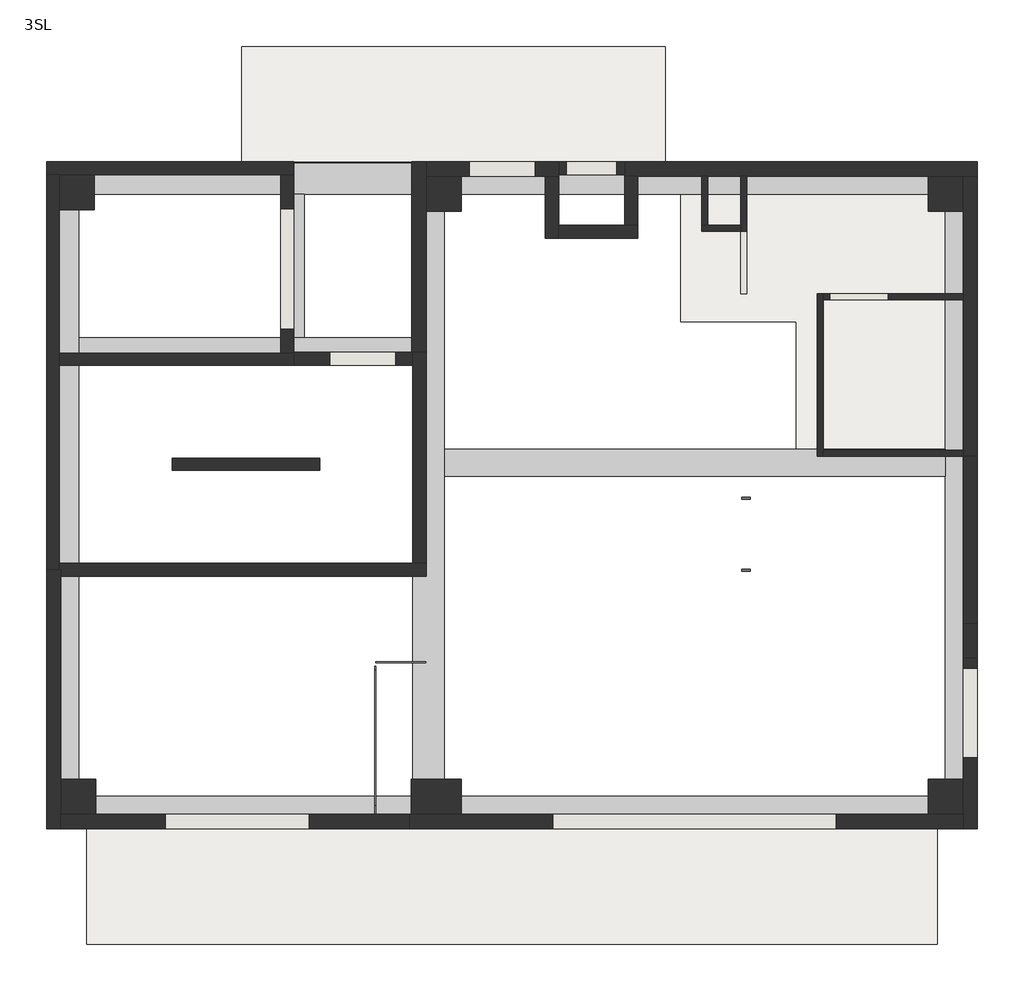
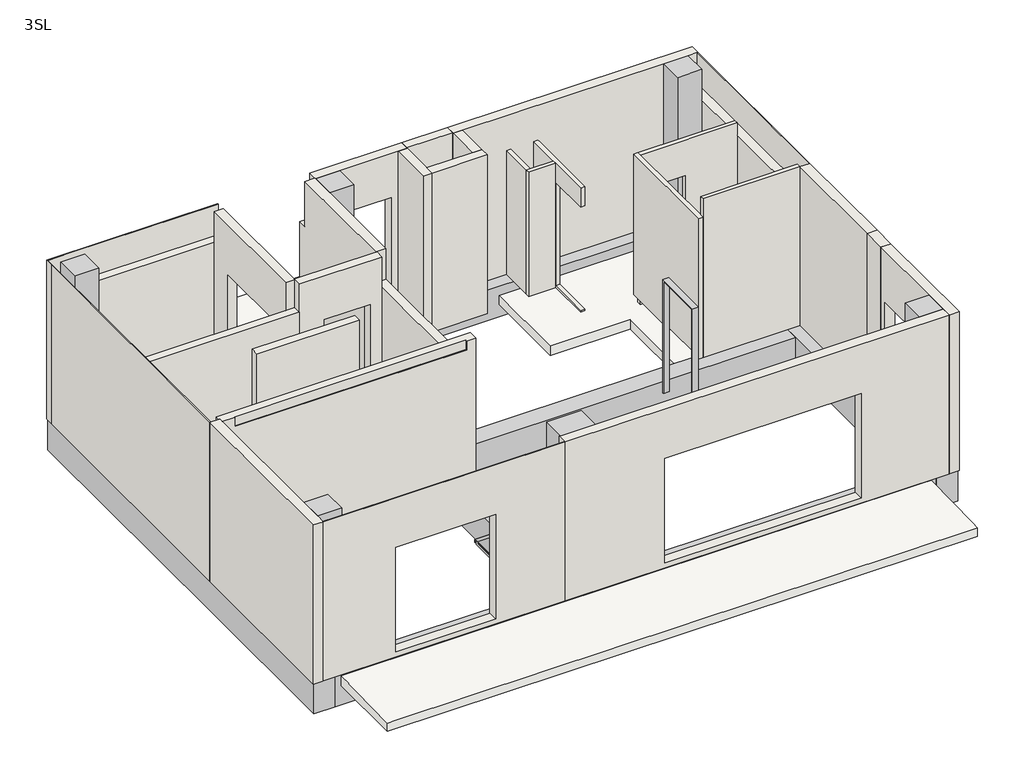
# One storey: 28 walls, 9 beams, 6 columns, 3 proxies, 3 slabs.
"""IFC4 building model written with IfcOpenShell, lengths in millimetres."""

from ifc_helpers import new_model, si_unit, frame, origin, place, context, project, spatial, polyline, outline, extrude, faceted_brep, transform, mapped, element, save
from components import w900h2200_d33cf105

model = new_model("IFC4")

# Units and contexts
model_context = context("Model", 3, world=origin())
ifc_project = project(units=[si_unit("LENGTHUNIT", "METRE", prefix="MILLI")], contexts=[model_context])

# Site, building, storey
site = spatial("IfcSite", under=ifc_project)
building = spatial("IfcBuilding", under=site)
storey = spatial("IfcBuildingStorey", under=building, Name="3SL", Elevation=6240.0)

# Beams
placement = place(None, origin())
element("IfcBeam", 1, ObjectType="コンクリート-長方形梁 : B1-350x550", at=placement, inside=storey, context=model_context, shape_type="SweptSolid", body=[
    extrude(outline(polyline([(7768.2341012, -131.3998484), (7768.2341012, -481.3998484), (1318.2341012, -481.3998484), (1318.2341012, -131.3998484), (7768.2341012, -131.3998484)])), frame((0.0, 0.0, 5690.0), z_axis=(0.0, 0.0, 1.0), x_axis=(1.0, 0.0, 0.0)), (0.0, 0.0, 1.0), 550.0),
])
element("IfcBeam", 2, ObjectType="コンクリート-長方形梁 : B1-350x550", at=placement, inside=storey, context=model_context, shape_type="Brep", body=[
    faceted_brep([(-3381.7658988, 1298.6001516, 6240.0), (-3381.7658988, 948.6001516, 6240.0), (-616.7658988, 948.6001516, 6240.0), (918.2341012, 948.6001516, 6240.0), (918.2341012, 1298.6001516, 6240.0), (-481.7658988, 1298.6001516, 6240.0), (-781.7658988, 1298.6001516, 6240.0), (-3381.7658988, 948.6001516, 5690.0), (-616.7658988, 948.6001516, 5690.0), (918.2341012, 948.6001516, 5690.0), (-3381.7658988, 1298.6001516, 5690.0), (918.2341012, 1298.6001516, 5690.0)], [[[0, 1, 2, 3, 4, 5, 6]], [[1, 7, 8, 9, 3, 2]], [[7, 10, 11, 9, 8]], [[10, 0, 6, 5, 4, 11]], [[1, 0, 10, 7]], [[4, 3, 9, 11]]]),
])
element("IfcBeam", 3, ObjectType="コンクリート-長方形梁 : B2-300x500", at=placement, inside=storey, context=model_context, shape_type="SweptSolid", body=[
    extrude(outline(polyline([(-481.7658988, 1298.6001516), (-781.7658988, 1298.6001516), (-781.7658988, 3148.6001516), (-481.7658988, 3148.6001516), (-481.7658988, 1298.6001516)])), frame((0.0, 0.0, 5740.0), z_axis=(0.0, 0.0, 1.0), x_axis=(1.0, 0.0, 0.0)), (0.0, 0.0, 1.0), 500.0),
])
element("IfcBeam", 4, ObjectType="コンクリート-長方形梁 : G1-400x600", at=placement, inside=storey, context=model_context, shape_type="Brep", body=[
    faceted_brep([(7768.2341012, -5001.3998484, 6240.0), (8168.2341012, -5001.3998484, 6240.0), (8168.2341012, -221.3998484, 6240.0), (8168.2341012, 3378.6001516, 6240.0), (8168.2341012, 3548.6001516, 6240.0), (7768.2341012, 3548.6001516, 6240.0), (7768.2341012, 3148.6001516, 6240.0), (7768.2341012, -131.3998484, 6240.0), (7768.2341012, -481.3998484, 6240.0), (7768.2341012, -4601.3998484, 6240.0), (8168.2341012, -5001.3998484, 5640.0), (8168.2341012, -221.3998484, 5640.0), (8168.2341012, 3378.6001516, 5640.0), (8168.2341012, 3548.6001516, 5640.0), (7768.2341012, -5001.3998484, 5640.0), (7768.2341012, -4601.3998484, 5640.0), (7768.2341012, 3148.6001516, 5640.0), (7768.2341012, 3548.6001516, 5640.0)], [[[0, 1, 2, 3, 4, 5, 6, 7, 8, 9]], [[1, 10, 11, 12, 13, 4, 3, 2]], [[10, 14, 15, 16, 17, 13, 12, 11]], [[14, 0, 9, 8, 7, 6, 5, 17, 16, 15]], [[1, 0, 14, 10]], [[5, 4, 13, 17]]]),
])
element("IfcBeam", 5, ObjectType="コンクリート-長方形梁 : G1-400x600", at=placement, inside=storey, context=model_context, shape_type="Brep", body=[
    faceted_brep([(-3381.7658988, 3548.6001516, 6240.0), (-3781.7658988, 3548.6001516, 6240.0), (-3781.7658988, 3398.6001516, 6240.0), (-3781.7658988, -1686.3998484, 6240.0), (-3781.7658988, -5001.3998484, 6240.0), (-3381.7658988, -5001.3998484, 6240.0), (-3381.7658988, -4601.3998484, 6240.0), (-3381.7658988, 948.6001516, 6240.0), (-3381.7658988, 1298.6001516, 6240.0), (-3381.7658988, 3148.6001516, 6240.0), (-3781.7658988, 3548.6001516, 5640.0), (-3781.7658988, 3398.6001516, 5640.0), (-3781.7658988, -1686.3998484, 5640.0), (-3781.7658988, -5001.3998484, 5640.0), (-3381.7658988, 3548.6001516, 5640.0), (-3381.7658988, 3148.6001516, 5640.0), (-3381.7658988, -4601.3998484, 5640.0), (-3381.7658988, -5001.3998484, 5640.0)], [[[0, 1, 2, 3, 4, 5, 6, 7, 8, 9]], [[1, 10, 11, 12, 13, 4, 3, 2]], [[10, 14, 15, 16, 17, 13, 12, 11]], [[14, 0, 9, 8, 7, 6, 5, 17, 16, 15]], [[1, 0, 14, 10]], [[5, 4, 13, 17]]]),
])
element("IfcBeam", 6, ObjectType="コンクリート-長方形梁 : G1-400x600", at=placement, inside=storey, context=model_context, shape_type="Brep", body=[
    faceted_brep([(918.2341012, -5001.3998484, 6240.0), (1318.2341012, -5001.3998484, 6240.0), (1318.2341012, -4601.3998484, 6240.0), (1318.2341012, -481.3998484, 6240.0), (1318.2341012, -131.3998484, 6240.0), (1318.2341012, 3148.6001516, 6240.0), (918.2341012, 3148.6001516, 6240.0), (918.2341012, 1298.6001516, 6240.0), (918.2341012, 948.6001516, 6240.0), (918.2341012, -1601.3998484, 6240.0), (918.2341012, -4601.3998484, 6240.0), (918.2341012, -5001.3998484, 5640.0), (918.2341012, 3148.6001516, 5640.0), (918.2341012, 1113.6001516, 5640.0), (918.2341012, -1601.3998484, 5640.0), (918.2341012, -4601.3998484, 5640.0), (1318.2341012, -5001.3998484, 5640.0), (1318.2341012, 3148.6001516, 5640.0), (1318.2341012, -4601.3998484, 5640.0), (1318.2341012, 3148.6001516, 6060.0)], [[[0, 1, 2, 3, 4, 5, 6, 7, 8, 9, 10]], [[11, 0, 10, 9, 8, 7, 6, 12, 13, 14, 15]], [[16, 11, 15, 14, 13, 12, 17, 18]], [[1, 16, 18, 17, 19, 5, 4, 3, 2]], [[1, 0, 11, 16]], [[6, 5, 19, 17, 12]]]),
])
element("IfcBeam", 7, ObjectType="コンクリート-長方形梁 : G1-400x600", at=placement, inside=storey, context=model_context, shape_type="SweptSolid", body=[
    extrude(outline(polyline([(7768.2341012, -4601.3998484), (7768.2341012, -5001.3998484), (1318.2341012, -5001.3998484), (1318.2341012, -4601.3998484), (7768.2341012, -4601.3998484)])), frame((0.0, 0.0, 5640.0), z_axis=(0.0, 0.0, 1.0), x_axis=(1.0, 0.0, 0.0)), (0.0, 0.0, 1.0), 600.0),
])
element("IfcBeam", 8, ObjectType="コンクリート-長方形梁 : G1-400x600", at=placement, inside=storey, context=model_context, shape_type="Brep", body=[
    faceted_brep([(7768.2341012, 3148.6001516, 6240.0), (7768.2341012, 3548.6001516, 6240.0), (-616.7658988, 3548.6001516, 6240.0), (-3381.7658988, 3548.6001516, 6240.0), (-3381.7658988, 3148.6001516, 6240.0), (-781.7658988, 3148.6001516, 6240.0), (-481.7658988, 3148.6001516, 6240.0), (918.2341012, 3148.6001516, 6240.0), (1318.2341012, 3148.6001516, 6240.0), (7768.2341012, 3548.6001516, 5640.0), (-616.7658988, 3548.6001516, 5640.0), (-3381.7658988, 3548.6001516, 5640.0), (7768.2341012, 3148.6001516, 5640.0), (1318.2341012, 3148.6001516, 5640.0), (918.2341012, 3148.6001516, 5640.0), (-3381.7658988, 3148.6001516, 5640.0)], [[[0, 1, 2, 3, 4, 5, 6, 7, 8]], [[1, 9, 10, 11, 3, 2]], [[9, 12, 13, 14, 15, 11, 10]], [[12, 0, 8, 7, 6, 5, 4, 15, 14, 13]], [[1, 0, 12, 9]], [[4, 3, 11, 15]]]),
])
element("IfcBeam", 9, ObjectType="コンクリート-長方形梁 : G1-400x600", at=placement, inside=storey, context=model_context, shape_type="Brep", body=[
    faceted_brep([(-3381.7658988, -4601.3998484, 6240.0), (-3381.7658988, -5001.3998484, 6240.0), (918.2341012, -5001.3998484, 6240.0), (918.2341012, -4601.3998484, 6240.0), (-3381.7658988, -5001.3998484, 5640.0), (918.2341012, -5001.3998484, 5640.0), (-3381.7658988, -4601.3998484, 5640.0), (918.2341012, -4601.3998484, 5640.0), (-3381.7658988, -4601.3998484, 6060.0), (918.2341012, -4601.3998484, 6060.0)], [[[0, 1, 2, 3]], [[1, 4, 5, 2]], [[4, 6, 7, 5]], [[6, 8, 0, 3, 9, 7]], [[1, 0, 8, 6, 4]], [[3, 2, 5, 7, 9]]]),
])

# Proxies
element("IfcBuildingElementProxy", 10, Name="幅木-標準", ObjectType="幅木-標準", at=placement, inside=storey, context=model_context, shape_type="SweptSolid", body=[
    extrude(outline(polyline([(1083.2341012, -2871.3998484), (1083.2341012, -2881.3998484), (438.2341012, -2881.3998484), (438.2341012, -2871.3998484), (1083.2341012, -2871.3998484)])), frame((0.0, 0.0, 6240.0), z_axis=(0.0, 0.0, 1.0), x_axis=(1.0, 0.0, 0.0)), (0.0, 0.0, 1.0), 60.0),
])
element("IfcBuildingElementProxy", 11, Name="幅木-標準", ObjectType="幅木-標準", at=placement, inside=storey, context=model_context, shape_type="SweptSolid", body=[
    extrude(outline(polyline([(-2926.3998484, 6300.0), (-2926.3998484, 6240.0), (-4831.3998484, 6240.0), (-4831.3998484, 6300.0), (-4721.3998484, 6300.0), (-4721.3998484, 6275.0), (-2971.3998484, 6275.0), (-2971.3998484, 6300.0), (-2926.3998484, 6300.0)])), frame((428.2341012, 0.0, 0.0), z_axis=(1.0, 0.0, 0.0), x_axis=(0.0, 1.0, 0.0)), (0.0, 0.0, 1.0), 10.0),
])
w900h2200_shape = w900h2200_d33cf105(model_context)
element("IfcBuildingElementProxy", 12, Name="開口枠 - 鋼製 1 : W900H2200", ObjectType="開口枠 - 鋼製 1 : W900H2200", at=placement, inside=storey, context=model_context, shape_type="MappedRepresentation", body=[
    mapped(w900h2200_shape, transform((5203.2341012, -1351.3998484, 6240.0), x_axis=(0.0, 1.0, 0.0), y_axis=(-1.0, 0.0, 0.0), z_axis=(0.0, 0.0, 1.0))),
])

# Columns
element("IfcColumn", 13, ObjectType="角柱 : 600 x 600mm", at=placement, inside=storey, context=model_context, shape_type="Brep", body=[
    faceted_brep([(-3181.7658988, 2948.6001516, 9360.0), (-3181.7658988, 3398.6001516, 9360.0), (-3631.7658988, 3398.6001516, 9360.0), (-3631.7658988, 2948.6001516, 9360.0), (-3181.7658988, 3398.6001516, 6240.0), (-3181.7658988, 2948.6001516, 6240.0), (-3631.7658988, 2948.6001516, 6240.0), (-3631.7658988, 3398.6001516, 6240.0), (-3631.7658988, 3398.6001516, 8760.0)], [[[0, 1, 2, 3]], [[4, 5, 6, 7]], [[5, 0, 3, 6]], [[0, 5, 4, 1]], [[1, 4, 7, 8, 2]], [[3, 2, 8, 7, 6]]]),
])
element("IfcColumn", 14, ObjectType="角柱 : 620 x 620mm", at=placement, inside=storey, context=model_context, shape_type="Brep", body=[
    faceted_brep([(7548.2341012, -4381.3998484, 9360.0), (7548.2341012, -4831.3998484, 9360.0), (7998.2341012, -4831.3998484, 9360.0), (7998.2341012, -4381.3998484, 9360.0), (7548.2341012, -4831.3998484, 6240.0), (7548.2341012, -4381.3998484, 6240.0), (7998.2341012, -4381.3998484, 6240.0), (7998.2341012, -4831.3998484, 6240.0), (7548.2341012, -4381.3998484, 6275.0), (7548.2341012, -4381.3998484, 8675.0), (7998.2341012, -4381.3998484, 8675.0), (7998.2341012, -4381.3998484, 6275.0), (7548.2341012, -4831.3998484, 6275.0), (7548.2341012, -4831.3998484, 8675.0)], [[[0, 1, 2, 3]], [[4, 5, 6, 7]], [[5, 8, 9, 0, 3, 10, 11, 6]], [[0, 9, 8, 5, 4, 12, 13, 1]], [[4, 7, 2, 1, 13, 12]], [[3, 2, 7, 6, 11, 10]]]),
])
element("IfcColumn", 15, ObjectType="角柱 : 620 x 620mm", at=placement, inside=storey, context=model_context, shape_type="Brep", body=[
    faceted_brep([(7548.2341012, 2928.6001516, 9360.0), (7998.2341012, 2928.6001516, 9360.0), (7998.2341012, 3378.6001516, 9360.0), (7548.2341012, 3378.6001516, 9360.0), (7998.2341012, 2928.6001516, 6240.0), (7548.2341012, 2928.6001516, 6240.0), (7548.2341012, 3378.6001516, 6240.0), (7998.2341012, 3378.6001516, 6240.0), (7548.2341012, 2928.6001516, 6275.0), (7548.2341012, 2928.6001516, 8675.0), (7548.2341012, 3378.6001516, 8675.0), (7548.2341012, 3378.6001516, 6275.0), (7998.2341012, 2928.6001516, 6275.0), (7998.2341012, 2928.6001516, 8675.0), (7998.2341012, 3378.6001516, 8760.0)], [[[0, 1, 2, 3]], [[4, 5, 6, 7]], [[5, 8, 9, 0, 3, 10, 11, 6]], [[0, 9, 8, 5, 4, 12, 13, 1]], [[4, 7, 14, 2, 1, 13, 12]], [[3, 2, 14, 7, 6, 11, 10]]]),
])
element("IfcColumn", 16, ObjectType="角柱 : 620 x 620mm", at=placement, inside=storey, context=model_context, shape_type="Brep", body=[
    faceted_brep([(1538.2341012, 2928.6001516, 9360.0), (1538.2341012, 3378.6001516, 9360.0), (1088.2341012, 3378.6001516, 9360.0), (1088.2341012, 2928.6001516, 9360.0), (1538.2341012, 3378.6001516, 6240.0), (1538.2341012, 2928.6001516, 6240.0), (1088.2341012, 2928.6001516, 6240.0), (1088.2341012, 3378.6001516, 6240.0), (1538.2341012, 2928.6001516, 6275.0), (1538.2341012, 2928.6001516, 8675.0), (1088.2341012, 2928.6001516, 8675.0), (1088.2341012, 2928.6001516, 6275.0), (1538.2341012, 3378.6001516, 6275.0), (1538.2341012, 3378.6001516, 8675.0)], [[[0, 1, 2, 3]], [[4, 5, 6, 7]], [[5, 8, 9, 0, 3, 10, 11, 6]], [[0, 9, 8, 5, 4, 12, 13, 1]], [[4, 7, 2, 1, 13, 12]], [[3, 2, 7, 6, 11, 10]]]),
])
element("IfcColumn", 17, ObjectType="角柱 : 620 x 620mm", at=placement, inside=storey, context=model_context, shape_type="Brep", body=[
    faceted_brep([(-3161.7658988, -4381.3998484, 9360.0), (-3611.7658988, -4381.3998484, 9360.0), (-3611.7658988, -4831.3998484, 9360.0), (-3161.7658988, -4831.3998484, 9360.0), (-3611.7658988, -4381.3998484, 6240.0), (-3161.7658988, -4381.3998484, 6240.0), (-3161.7658988, -4831.3998484, 6240.0), (-3611.7658988, -4831.3998484, 6240.0), (-3161.7658988, -4381.3998484, 8675.0), (-3161.7658988, -4381.3998484, 6275.0), (-3611.7658988, -4381.3998484, 6275.0), (-3611.7658988, -4381.3998484, 8675.0), (-3161.7658988, -4831.3998484, 8675.0), (-3161.7658988, -4831.3998484, 6275.0), (-3611.7658988, -4831.3998484, 8760.0)], [[[0, 1, 2, 3]], [[4, 5, 6, 7]], [[0, 8, 9, 5, 4, 10, 11, 1]], [[5, 9, 8, 0, 3, 12, 13, 6]], [[1, 11, 10, 4, 7, 14, 2]], [[3, 2, 14, 7, 6, 13, 12]]]),
])
element("IfcColumn", 18, ObjectType="角柱 : 620 x 640mm", at=placement, inside=storey, context=model_context, shape_type="Brep", body=[
    faceted_brep([(1538.2341012, -4381.3998484, 9360.0), (898.2341012, -4381.3998484, 9360.0), (898.2341012, -4831.3998484, 9360.0), (1538.2341012, -4831.3998484, 9360.0), (898.2341012, -4381.3998484, 6240.0), (1538.2341012, -4381.3998484, 6240.0), (1538.2341012, -4831.3998484, 6240.0), (898.2341012, -4831.3998484, 6240.0), (1538.2341012, -4381.3998484, 8675.0), (1538.2341012, -4381.3998484, 6275.0), (898.2341012, -4381.3998484, 6275.0), (898.2341012, -4381.3998484, 8675.0), (898.2341012, -4831.3998484, 6275.0), (898.2341012, -4831.3998484, 8675.0), (1538.2341012, -4831.3998484, 8675.0), (1538.2341012, -4831.3998484, 6275.0)], [[[0, 1, 2, 3]], [[4, 5, 6, 7]], [[1, 0, 8, 9, 5, 4, 10, 11]], [[1, 11, 10, 4, 7, 12, 13, 2]], [[5, 9, 8, 0, 3, 14, 15, 6]], [[3, 2, 13, 12, 7, 6, 15, 14]]]),
])

# Slabs
element("IfcSlab", 19, ObjectType="一般180mm", at=placement, inside=storey, context=model_context, shape_type="Brep", body=[
    faceted_brep([(4363.2341012, 1508.6001516, 5880.0), (4363.2341012, 3148.6001516, 5880.0), (7768.2341012, 3148.6001516, 5880.0), (7768.2341012, -131.3998484, 5880.0), (5853.2341012, -131.3998484, 5880.0), (5853.2341012, 1508.6001516, 5880.0), (4363.2341012, 1508.6001516, 6060.0), (5853.2341012, 1508.6001516, 6060.0), (5853.2341012, -131.3998484, 6060.0), (6213.2341012, -131.3998484, 6060.0), (7768.2341012, -131.3998484, 6060.0), (7768.2341012, 3148.6001516, 6060.0), (4723.2341012, 3148.6001516, 6060.0), (4363.2341012, 3148.6001516, 6060.0)], [[[0, 1, 2, 3, 4, 5]], [[6, 7, 8, 9, 10, 11, 12, 13]], [[1, 0, 6, 13]], [[2, 1, 13, 12, 11]], [[3, 2, 11, 10]], [[4, 3, 10, 9, 8]], [[5, 4, 8, 7]], [[0, 5, 7, 6]]]),
])
element("IfcSlab", 20, ObjectType="一般 180mm+15ｍｍ", at=placement, inside=storey, context=model_context, shape_type="Brep", body=[
    faceted_brep([(4168.2341012, 3563.6001516, 6030.0), (-1281.7658988, 3563.6001516, 6030.0), (-1281.7658988, 5048.6001516, 6030.0), (4168.2341012, 5048.6001516, 6030.0), (4168.2341012, 3563.6001516, 6225.0), (4018.2341012, 3563.6001516, 6225.0), (-1131.7658988, 3563.6001516, 6225.0), (-1281.7658988, 3563.6001516, 6225.0), (-1281.7658988, 5048.6001516, 6195.0), (-1131.7658988, 5048.6001516, 6195.0), (4168.2341012, 5048.6001516, 6195.0), (4168.2341012, 4898.6001516, 6198.030303)], [[[0, 1, 2, 3]], [[1, 0, 4, 5, 6, 7]], [[2, 1, 7, 8]], [[3, 2, 8, 9, 10]], [[0, 3, 10, 11, 4]], [[10, 9, 8, 7, 6, 5, 4, 11]]]),
])
element("IfcSlab", 21, ObjectType="一般 180mm+15ｍｍ", at=placement, inside=storey, context=model_context, shape_type="Brep", body=[
    faceted_brep([(7668.2341012, -5016.3998484, 6030.0), (7668.2341012, -6501.3998484, 6030.0), (-3281.7658988, -6501.3998484, 6030.0), (-3281.7658988, -5016.3998484, 6030.0), (7668.2341012, -5016.3998484, 6225.0), (7668.2341012, -6351.3998484, 6198.030303), (7668.2341012, -6501.3998484, 6195.0), (-3131.7658988, -6501.3998484, 6195.0), (-3281.7658988, -6501.3998484, 6195.0), (-3281.7658988, -5016.3998484, 6225.0), (7518.2341012, -5016.3998484, 6225.0)], [[[0, 1, 2, 3]], [[1, 0, 4, 5, 6]], [[2, 1, 6, 7, 8]], [[3, 2, 8, 9]], [[0, 3, 9, 10, 4]], [[9, 8, 7, 6, 5, 4, 10]]]),
])

# Walls
element("IfcWall", 22, ObjectType="外壁-150mm+15mm", at=placement, inside=storey, context=model_context, shape_type="Brep", body=[
    faceted_brep([(-3796.7658988, 3398.6001516, 6240.0), (-3781.7658988, 3398.6001516, 6240.0), (-3631.7658988, 3398.6001516, 6240.0), (-3181.7658988, 3398.6001516, 6240.0), (-781.7658988, 3398.6001516, 6240.0), (-616.7658988, 3398.6001516, 6240.0), (-616.7658988, 3398.6001516, 8475.0), (-616.7658988, 3398.6001516, 8760.0), (-3631.7658988, 3398.6001516, 8760.0), (-3781.7658988, 3398.6001516, 8760.0), (-3781.7658988, 3398.6001516, 9360.0), (-3796.7658988, 3398.6001516, 9360.0), (-616.7658988, 3563.6001516, 6240.0), (-3796.7658988, 3563.6001516, 6240.0), (-3796.7658988, 3563.6001516, 9360.0), (-616.7658988, 3563.6001516, 9360.0), (-616.7658988, 3563.6001516, 8475.0), (-616.7658988, 3548.6001516, 6240.0), (-3781.7658988, 3548.6001516, 9360.0), (-3381.7658988, 3548.6001516, 9360.0), (-616.7658988, 3548.6001516, 9360.0), (-616.7658988, 3548.6001516, 8760.0), (-3781.7658988, 3548.6001516, 8760.0), (-3381.7658988, 3548.6001516, 8760.0)], [[[0, 1, 2, 3, 4, 5, 6, 7, 8, 9, 10, 11]], [[12, 13, 14, 15, 16]], [[5, 4, 3, 2, 1, 0, 13, 12, 17]], [[15, 14, 11, 10, 18, 19, 20]], [[0, 11, 14, 13]], [[5, 17, 12, 16, 15, 20, 21, 7, 6]], [[18, 22, 23, 21, 20, 19]], [[21, 23, 22, 9, 8, 7]], [[22, 18, 10, 9]]]),
])
element("IfcWall", 23, ObjectType="外壁-15mm+150mm+20mm", at=placement, inside=storey, context=model_context, shape_type="Brep", body=[
    faceted_brep([(7998.2341012, 3378.6001516, 6240.0), (7998.2341012, 2928.6001516, 6240.0), (7998.2341012, -221.3998484, 6240.0), (7998.2341012, -221.3998484, 8760.0), (7998.2341012, 3378.6001516, 8760.0), (8183.2341012, -221.3998484, 9360.0), (8183.2341012, -221.3998484, 6240.0), (8183.2341012, 3378.6001516, 6240.0), (8183.2341012, 3378.6001516, 9360.0), (8168.2341012, -221.3998484, 9360.0), (8168.2341012, -221.3998484, 8760.0), (8018.2341012, -221.3998484, 6240.0), (8168.2341012, -221.3998484, 6240.0), (8168.2341012, 3378.6001516, 9360.0), (8168.2341012, 3378.6001516, 6240.0), (8018.2341012, 3378.6001516, 6240.0), (8168.2341012, 3378.6001516, 8760.0)], [[[0, 1, 2, 3, 4]], [[5, 6, 7, 8]], [[6, 5, 9, 10, 3, 2, 11, 12]], [[5, 8, 13, 9]], [[8, 7, 14, 15, 0, 4, 16, 13]], [[2, 1, 0, 15, 11]], [[15, 14, 7, 6, 12, 11]], [[16, 10, 9, 13]], [[10, 16, 4, 3]]]),
])
element("IfcWall", 24, ObjectType="外壁-15mm+150mm+20mm", at=placement, inside=storey, context=model_context, shape_type="Brep", body=[
    faceted_brep([(7998.2341012, -4831.3998484, 6240.0), (7548.2341012, -4831.3998484, 6240.0), (1538.2341012, -4831.3998484, 6240.0), (898.2341012, -4831.3998484, 6240.0), (870.7341012, -4831.3998484, 6240.0), (870.7341012, -4831.3998484, 8760.0), (870.7341012, -4831.3998484, 9360.0), (898.2341012, -4831.3998484, 9360.0), (1538.2341012, -4831.3998484, 9360.0), (7548.2341012, -4831.3998484, 9360.0), (7998.2341012, -4831.3998484, 9360.0), (6368.2341012, -4831.3998484, 6335.0), (6368.2341012, -4831.3998484, 8385.0), (2718.2341012, -4831.3998484, 8385.0), (2718.2341012, -4831.3998484, 6335.0), (7998.2341012, -5016.3998484, 6240.0), (7998.2341012, -5016.3998484, 9360.0), (870.7341012, -5016.3998484, 9360.0), (870.7341012, -5016.3998484, 6240.0), (6368.2341012, -5016.3998484, 6335.0), (2718.2341012, -5016.3998484, 6335.0), (2718.2341012, -5016.3998484, 8385.0), (6368.2341012, -5016.3998484, 8385.0), (870.7341012, -4851.3998484, 6240.0), (870.7341012, -5001.3998484, 9360.0), (7998.2341012, -4851.3998484, 6240.0)], [[[0, 1, 2, 3, 4, 5, 6, 7, 8, 9, 10], [11, 12, 13, 14]], [[15, 16, 17, 18], [19, 20, 21, 22]], [[6, 5, 4, 23, 18, 17, 24]], [[10, 9, 8, 7, 6, 24, 17, 16]], [[0, 10, 16, 15, 25]], [[12, 11, 19, 22]], [[13, 12, 22, 21]], [[14, 13, 21, 20]], [[11, 14, 20, 19]], [[4, 3, 2, 1, 0, 25, 23]], [[25, 15, 18, 23]]]),
])
element("IfcWall", 25, ObjectType="外壁-15mm+150mm+20mm", at=placement, inside=storey, context=model_context, shape_type="Brep", body=[
    faceted_brep([(-3611.7658988, -5016.3998484, 6240.0), (-3611.7658988, -4831.3998484, 6240.0), (-3611.7658988, -4381.3998484, 6240.0), (-3611.7658988, -1771.3998484, 6240.0), (-3611.7658988, -1686.3998484, 6240.0), (-3611.7658988, -1686.3998484, 9360.0), (-3611.7658988, -1771.3998484, 9360.0), (-3611.7658988, -4381.3998484, 9360.0), (-3611.7658988, -4831.3998484, 9360.0), (-3611.7658988, -5016.3998484, 9360.0), (-3796.7658988, -5016.3998484, 6240.0), (-3796.7658988, -5016.3998484, 9360.0), (-3796.7658988, -1686.3998484, 9360.0), (-3796.7658988, -1686.3998484, 6240.0), (-3631.7658988, -1686.3998484, 6240.0), (-3781.7658988, -1686.3998484, 9360.0), (-3631.7658988, -1686.3998484, 9360.0), (-3631.7658988, -5016.3998484, 6240.0)], [[[0, 1, 2, 3, 4, 5, 6, 7, 8, 9]], [[10, 11, 12, 13]], [[5, 4, 14, 13, 12, 15, 16]], [[9, 8, 7, 6, 5, 16, 15, 12, 11]], [[4, 3, 2, 1, 0, 17, 14]], [[0, 9, 11, 10, 17]], [[17, 10, 13, 14]]]),
])
element("IfcWall", 26, ObjectType="外壁-150mm+20mm", at=placement, inside=storey, context=model_context, shape_type="Brep", body=[
    faceted_brep([(1088.2341012, -1771.3998484, 6240.0), (1088.2341012, -1771.3998484, 9360.0), (918.2341012, -1771.3998484, 9360.0), (918.2341012, -1771.3998484, 9180.0), (-3381.7658988, -1771.3998484, 9180.0), (-3381.7658988, -1771.3998484, 9360.0), (-3611.7658988, -1771.3998484, 9360.0), (-3611.7658988, -1771.3998484, 6275.0), (1083.2341012, -1771.3998484, 6275.0), (1083.2341012, -1771.3998484, 6240.0), (-3631.7658988, -1601.3998484, 9360.0), (1088.2341012, -1601.3998484, 9360.0), (1088.2341012, -1601.3998484, 8760.0), (1088.2341012, -1601.3998484, 6275.0), (1088.2341012, -1601.3998484, 6240.0), (-3631.7658988, -1601.3998484, 6240.0), (-3631.7658988, -1686.3998484, 9360.0), (-3611.7658988, -1686.3998484, 9360.0), (-3381.7658988, -1751.3998484, 9360.0), (918.2341012, -1751.3998484, 9360.0), (-3611.7658988, -1686.3998484, 6275.0), (1088.2341012, -1751.3998484, 6240.0), (-3631.7658988, -1686.3998484, 8760.0), (-3631.7658988, -1686.3998484, 6275.0), (-3631.7658988, -1676.3998484, 6240.0), (-3631.7658988, -1676.3998484, 6275.0), (1083.2341012, -1751.3998484, 6240.0), (1083.2341012, -1676.3998484, 6240.0), (1083.2341012, -1676.3998484, 6275.0), (918.2341012, -1751.3998484, 9180.0), (-3381.7658988, -1751.3998484, 9180.0)], [[[0, 1, 2, 3, 4, 5, 6, 7, 8, 9]], [[10, 11, 12, 13, 14, 15]], [[11, 10, 16, 17, 6, 5, 18, 19, 2, 1]], [[6, 17, 20, 7]], [[1, 0, 21, 14, 13, 12, 11]], [[17, 16, 22, 23, 20]], [[10, 15, 24, 25, 23, 22, 16]], [[21, 0, 9, 26]], [[15, 14, 21, 26, 27, 24]], [[28, 8, 7, 20, 23, 25]], [[28, 27, 26, 9, 8]], [[27, 28, 25, 24]], [[29, 30, 4, 3]], [[19, 29, 3, 2]], [[30, 18, 5, 4]], [[30, 29, 19, 18]]]),
])
element("IfcWall", 27, ObjectType="外壁-150mm+20mm", at=placement, inside=storey, context=model_context, shape_type="Brep", body=[
    faceted_brep([(1088.2341012, 1113.6001516, 8760.0), (1088.2341012, -1601.3998484, 8760.0), (1088.2341012, -1601.3998484, 6275.0), (1088.2341012, 1113.6001516, 6275.0), (918.2341012, 1113.6001516, 8760.0), (918.2341012, 1113.6001516, 6240.0), (918.2341012, 1031.1001516, 6240.0), (918.2341012, 1031.1001516, 6275.0), (918.2341012, -1601.3998484, 6275.0), (918.2341012, -1601.3998484, 8760.0), (993.2341012, 1113.6001516, 6275.0), (993.2341012, 1113.6001516, 6240.0), (993.2341012, 1031.1001516, 6240.0), (993.2341012, 1031.1001516, 6275.0)], [[[0, 1, 2, 3]], [[4, 5, 6, 7, 8, 9]], [[1, 9, 8, 2]], [[5, 4, 0, 3, 10, 11]], [[6, 5, 11, 12]], [[1, 0, 4, 9]], [[2, 8, 7, 13, 10, 3]], [[13, 7, 6, 12]], [[10, 13, 12, 11]]]),
])
element("IfcWall", 28, ObjectType="標準-150mm", at=placement, inside=storey, context=model_context, shape_type="Brep", body=[
    faceted_brep([(-3631.7658988, 948.6001516, 6240.0), (-3381.7658988, 948.6001516, 6240.0), (-616.7658988, 948.6001516, 6240.0), (-616.7658988, 948.6001516, 8810.0), (-3381.7658988, 948.6001516, 8810.0), (-3631.7658988, 948.6001516, 8810.0), (-616.7658988, 1098.6001516, 6240.0), (-781.7658988, 1098.6001516, 6240.0), (-3631.7658988, 1098.6001516, 6240.0), (-3631.7658988, 1098.6001516, 8810.0), (-616.7658988, 1098.6001516, 8810.0)], [[[0, 1, 2, 3, 4, 5]], [[6, 7, 8, 9, 10]], [[2, 1, 0, 8, 7, 6]], [[8, 0, 5, 9]], [[2, 6, 10, 3]], [[5, 4, 3, 10, 9]]]),
])
element("IfcWall", 29, ObjectType="外壁-150mm+15mm", at=placement, inside=storey, context=model_context, shape_type="Brep", body=[
    faceted_brep([(-616.7658988, 1098.6001516, 6240.0), (-616.7658988, 1113.6001516, 6240.0), (-616.7658988, 3398.6001516, 6240.0), (-616.7658988, 3398.6001516, 8760.0), (-616.7658988, 3398.6001516, 9360.0), (-616.7658988, 1113.6001516, 9360.0), (-616.7658988, 1098.6001516, 9360.0), (-616.7658988, 1098.6001516, 8810.0), (-616.7658988, 2958.6001516, 8375.0), (-616.7658988, 2958.6001516, 6275.0), (-616.7658988, 1408.6001516, 6275.0), (-616.7658988, 1408.6001516, 8375.0), (-781.7658988, 1098.6001516, 6240.0), (-781.7658988, 1098.6001516, 9360.0), (-781.7658988, 3398.6001516, 9360.0), (-781.7658988, 3398.6001516, 6240.0), (-781.7658988, 2958.6001516, 8375.0), (-781.7658988, 1408.6001516, 8375.0), (-781.7658988, 1408.6001516, 6275.0), (-781.7658988, 2958.6001516, 6275.0)], [[[0, 1, 2, 3, 4, 5, 6, 7], [8, 9, 10, 11]], [[12, 13, 14, 15], [16, 17, 18, 19]], [[2, 1, 0, 12, 15]], [[6, 5, 4, 14, 13]], [[0, 7, 6, 13, 12]], [[2, 15, 14, 4, 3]], [[9, 8, 16, 19]], [[10, 9, 19, 18]], [[11, 10, 18, 17]], [[8, 11, 17, 16]]]),
])
element("IfcWall", 30, ObjectType="外壁-15mm+150mm+20mm", at=placement, inside=storey, context=model_context, shape_type="Brep", body=[
    faceted_brep([(1088.2341012, 3378.6001516, 6240.0), (1538.2341012, 3378.6001516, 6240.0), (2623.2341012, 3378.6001516, 6240.0), (2793.2341012, 3378.6001516, 6240.0), (2793.2341012, 3378.6001516, 9360.0), (2623.2341012, 3378.6001516, 9360.0), (1538.2341012, 3378.6001516, 9360.0), (1088.2341012, 3378.6001516, 9360.0), (2493.2341012, 3378.6001516, 8500.0), (2493.2341012, 3378.6001516, 6275.0), (1643.2341012, 3378.6001516, 6275.0), (1643.2341012, 3378.6001516, 8500.0), (1088.2341012, 3563.6001516, 9360.0), (2793.2341012, 3563.6001516, 9360.0), (2793.2341012, 3563.6001516, 6240.0), (1088.2341012, 3563.6001516, 6240.0), (1088.2341012, 3563.6001516, 8475.0), (2493.2341012, 3563.6001516, 6275.0), (2493.2341012, 3563.6001516, 8500.0), (1643.2341012, 3563.6001516, 8500.0), (1643.2341012, 3563.6001516, 6275.0), (2793.2341012, 3398.6001516, 9360.0), (1088.2341012, 3398.6001516, 9360.0), (1088.2341012, 3398.6001516, 6240.0), (2793.2341012, 3398.6001516, 6240.0)], [[[0, 1, 2, 3, 4, 5, 6, 7], [8, 9, 10, 11]], [[12, 13, 14, 15, 16], [17, 18, 19, 20]], [[7, 6, 5, 4, 21, 13, 12, 22]], [[3, 2, 1, 0, 23, 24]], [[4, 3, 24, 14, 13, 21]], [[0, 7, 22, 12, 16, 15, 23]], [[15, 14, 24, 23]], [[8, 18, 17, 9]], [[9, 17, 20, 10]], [[10, 20, 19, 11]], [[18, 8, 11, 19]]]),
])
element("IfcWall", 31, ObjectType="外壁-150mm+20mm", at=placement, inside=storey, context=model_context, shape_type="Brep", body=[
    faceted_brep([(2623.2341012, 3378.6001516, 6240.0), (2623.2341012, 2578.6001516, 6240.0), (2623.2341012, 2578.6001516, 9360.0), (2623.2341012, 3378.6001516, 9360.0), (2793.2341012, 3378.6001516, 6240.0), (2793.2341012, 3378.6001516, 9360.0), (2793.2341012, 2748.6001516, 9360.0), (2793.2341012, 2578.6001516, 9360.0), (2793.2341012, 2578.6001516, 6240.0), (2793.2341012, 2748.6001516, 6240.0), (2643.2341012, 2578.6001516, 6240.0), (2643.2341012, 3378.6001516, 6240.0)], [[[0, 1, 2, 3]], [[4, 5, 6, 7, 8, 9]], [[3, 2, 7, 6, 5]], [[2, 1, 10, 8, 7]], [[0, 3, 5, 4, 11]], [[1, 0, 11, 10]], [[11, 4, 9, 8, 10]]]),
])
element("IfcWall", 32, ObjectType="外壁-150mm+20mm", at=placement, inside=storey, context=model_context, shape_type="Brep", body=[
    faceted_brep([(2793.2341012, 2578.6001516, 6240.0), (3813.2341012, 2578.6001516, 6240.0), (3813.2341012, 2578.6001516, 9360.0), (2793.2341012, 2578.6001516, 9360.0), (2793.2341012, 2748.6001516, 6240.0), (2793.2341012, 2748.6001516, 9360.0), (3643.2341012, 2748.6001516, 9360.0), (3813.2341012, 2748.6001516, 9360.0), (3813.2341012, 2748.6001516, 6240.0), (3643.2341012, 2748.6001516, 6240.0), (2793.2341012, 2598.6001516, 6240.0), (3813.2341012, 2598.6001516, 6240.0)], [[[0, 1, 2, 3]], [[4, 5, 6, 7, 8, 9]], [[3, 2, 7, 6, 5]], [[0, 3, 5, 4, 10]], [[1, 0, 10, 11]], [[10, 4, 9, 8, 11]], [[2, 1, 11, 8, 7]]]),
])
element("IfcWall", 33, ObjectType="外壁-150mm+20mm", at=placement, inside=storey, context=model_context, shape_type="SweptSolid", body=[
    extrude(outline(polyline([(6240.0, 3813.2341012), (9360.0, 3813.2341012), (9360.0, 3643.2341012), (6240.0, 3643.2341012), (6240.0, 3793.2341012), (6240.0, 3813.2341012)])), frame((0.0, 2748.6001516, 0.0), z_axis=(0.0, 1.0, 0.0), x_axis=(0.0, 0.0, 1.0)), (0.0, 0.0, 1.0), 630.0),
])
element("IfcWall", 34, ObjectType="標準\u300065ｍｍ+12.5mm", at=placement, inside=storey, context=model_context, shape_type="Brep", body=[
    faceted_brep([(6200.7341012, -221.3998484, 6240.0), (6200.7341012, -143.8998484, 6240.0), (6200.7341012, 1868.6001516, 6240.0), (6200.7341012, 1868.6001516, 9000.0), (6200.7341012, 1791.1001516, 9000.0), (6200.7341012, -221.3998484, 9000.0), (6123.2341012, -221.3998484, 9000.0), (6123.2341012, 1868.6001516, 9000.0), (6123.2341012, 1868.6001516, 8675.0), (6123.2341012, 1868.6001516, 6275.0), (6123.2341012, 1868.6001516, 6240.0), (6123.2341012, 723.6001516, 6240.0), (6123.2341012, 723.6001516, 6275.0), (6123.2341012, 678.6001516, 6275.0), (6123.2341012, -131.3998484, 6275.0), (6123.2341012, -176.3998484, 6275.0), (6123.2341012, -176.3998484, 6240.0), (6123.2341012, -221.3998484, 6240.0), (6123.2341012, -221.3998484, 6275.0), (6123.2341012, -221.3998484, 8675.0), (6168.2341012, -176.3998484, 6240.0), (6168.2341012, 723.6001516, 6240.0), (6168.2341012, 723.6001516, 6275.0), (6168.2341012, -176.3998484, 6275.0)], [[[0, 1, 2, 3, 4, 5]], [[6, 7, 8, 9, 10, 11, 12, 13, 14, 15, 16, 17, 18, 19]], [[2, 1, 0, 17, 16, 20, 21, 11, 10]], [[5, 4, 3, 7, 6]], [[5, 6, 19, 18, 17, 0]], [[22, 23, 15, 14, 13, 12]], [[23, 20, 16, 15]], [[21, 22, 12, 11]], [[23, 22, 21, 20]], [[2, 10, 9, 8, 7, 3]]]),
])
element("IfcWall", 35, ObjectType="標準\u300065ｍｍ+12.5mm", at=placement, inside=storey, context=model_context, shape_type="Brep", body=[
    faceted_brep([(6200.7341012, 1791.1001516, 6060.0), (7998.2341012, 1791.1001516, 6060.0), (7998.2341012, 1791.1001516, 9000.0), (6200.7341012, 1791.1001516, 9000.0), (6283.2341012, 1791.1001516, 8300.0), (7033.2341012, 1791.1001516, 8300.0), (7033.2341012, 1791.1001516, 6275.0), (6283.2341012, 1791.1001516, 6275.0), (6200.7341012, 1868.6001516, 6060.0), (6200.7341012, 1868.6001516, 6240.0), (6200.7341012, 1868.6001516, 9000.0), (7998.2341012, 1868.6001516, 9000.0), (7998.2341012, 1868.6001516, 8675.0), (7998.2341012, 1868.6001516, 6275.0), (7998.2341012, 1868.6001516, 6060.0), (6283.2341012, 1868.6001516, 8300.0), (6283.2341012, 1868.6001516, 6275.0), (7033.2341012, 1868.6001516, 6275.0), (7033.2341012, 1868.6001516, 8300.0)], [[[0, 1, 2, 3], [4, 5, 6, 7]], [[8, 9, 10, 11, 12, 13, 14], [15, 16, 17, 18]], [[1, 0, 8, 14]], [[2, 1, 14, 13, 12, 11]], [[3, 2, 11, 10]], [[16, 15, 4, 7]], [[17, 16, 7, 6]], [[18, 17, 6, 5]], [[15, 18, 5, 4]], [[0, 3, 10, 9, 8]]]),
])
element("IfcWall", 36, ObjectType="標準\u300065ｍｍ+12.5mm", at=placement, inside=storey, context=model_context, shape_type="Brep", body=[
    faceted_brep([(5135.7341012, 3378.6001516, 6240.0), (5135.7341012, 2746.1001516, 6240.0), (5135.7341012, 2668.6001516, 6240.0), (5135.7341012, 1868.6001516, 6240.0), (5135.7341012, 1868.6001516, 6275.0), (5135.7341012, 2668.6001516, 6275.0), (5135.7341012, 2668.6001516, 8300.0), (5135.7341012, 1868.6001516, 8300.0), (5135.7341012, 1868.6001516, 8675.0), (5135.7341012, 2668.6001516, 8675.0), (5135.7341012, 2746.1001516, 8675.0), (5135.7341012, 3378.6001516, 8675.0), (5213.2341012, 1868.6001516, 6240.0), (5213.2341012, 3378.6001516, 6240.0), (5213.2341012, 3378.6001516, 6275.0), (5213.2341012, 3378.6001516, 8675.0), (5213.2341012, 3338.6001516, 8675.0), (5213.2341012, 1868.6001516, 8675.0), (5213.2341012, 1868.6001516, 8300.0), (5213.2341012, 2668.6001516, 8300.0), (5213.2341012, 2668.6001516, 6275.0), (5213.2341012, 1868.6001516, 6275.0)], [[[0, 1, 2, 3, 4, 5, 6, 7, 8, 9, 10, 11]], [[12, 13, 14, 15, 16, 17, 18, 19, 20, 21]], [[3, 2, 1, 0, 13, 12]], [[11, 10, 9, 8, 17, 16, 15]], [[0, 11, 15, 14, 13]], [[3, 12, 21, 4]], [[17, 8, 7, 18]], [[20, 5, 4, 21]], [[5, 20, 19, 6]], [[6, 19, 18, 7]]]),
])
element("IfcWall", 37, ObjectType="標準\u300065ｍｍ+12.5mm", at=placement, inside=storey, context=model_context, shape_type="Brep", body=[
    faceted_brep([(5135.7341012, 2746.1001516, 6240.0), (4710.7341012, 2746.1001516, 6240.0), (4633.2341012, 2746.1001516, 6240.0), (4633.2341012, 2746.1001516, 8675.0), (4710.7341012, 2746.1001516, 8675.0), (5135.7341012, 2746.1001516, 8675.0), (5135.7341012, 2668.6001516, 6240.0), (5135.7341012, 2668.6001516, 8265.0), (5135.7341012, 2668.6001516, 8675.0), (4723.2341012, 2668.6001516, 8675.0), (4633.2341012, 2668.6001516, 8675.0), (4633.2341012, 2668.6001516, 6275.0), (4633.2341012, 2668.6001516, 6240.0)], [[[0, 1, 2, 3, 4, 5]], [[6, 7, 8, 9, 10, 11, 12]], [[2, 1, 0, 6, 12]], [[5, 4, 3, 10, 9, 8]], [[0, 5, 8, 7, 6]], [[2, 12, 11, 10, 3]]]),
])
element("IfcWall", 38, ObjectType="標準-150mm", at=placement, inside=storey, context=model_context, shape_type="SweptSolid", body=[
    extrude(outline(polyline([(-2181.7658988, -251.3998484), (-281.7658988, -251.3998484), (-281.7658988, -401.3998484), (-2181.7658988, -401.3998484), (-2181.7658988, -251.3998484)])), frame((0.0, 0.0, 6240.0), z_axis=(0.0, 0.0, 1.0), x_axis=(1.0, 0.0, 0.0)), (0.0, 0.0, 1.0), 3120.0),
])
element("IfcWall", 39, ObjectType="標準\u300065ｍｍ+12.5mm", at=placement, inside=storey, context=model_context, shape_type="Brep", body=[
    faceted_brep([(6200.7341012, -221.3998484, 9360.0), (6200.7341012, -221.3998484, 9000.0), (6200.7341012, -221.3998484, 6240.0), (7998.2341012, -221.3998484, 6240.0), (7998.2341012, -221.3998484, 6275.0), (7998.2341012, -221.3998484, 8675.0), (7998.2341012, -221.3998484, 9360.0), (6200.7341012, -143.8998484, 6240.0), (6200.7341012, -143.8998484, 9360.0), (7998.2341012, -143.8998484, 9360.0), (7998.2341012, -143.8998484, 6240.0)], [[[0, 1, 2, 3, 4, 5, 6]], [[7, 8, 9, 10]], [[3, 2, 7, 10]], [[6, 5, 4, 3, 10, 9]], [[0, 6, 9, 8]], [[0, 8, 7, 2, 1]]]),
])
element("IfcWall", 40, ObjectType="外壁-150mm+15mm", at=placement, inside=storey, context=model_context, shape_type="Brep", body=[
    faceted_brep([(-616.7658988, 948.6001516, 6240.0), (918.2341012, 948.6001516, 6240.0), (918.2341012, 948.6001516, 9360.0), (-616.7658988, 948.6001516, 9360.0), (-616.7658988, 948.6001516, 8810.0), (698.2341012, 948.6001516, 8500.0), (698.2341012, 948.6001516, 6275.0), (-151.7658988, 948.6001516, 6275.0), (-151.7658988, 948.6001516, 8500.0), (-616.7658988, 1113.6001516, 6240.0), (-616.7658988, 1113.6001516, 9360.0), (903.2341012, 1113.6001516, 9360.0), (918.2341012, 1113.6001516, 9360.0), (918.2341012, 1113.6001516, 8760.0), (918.2341012, 1113.6001516, 6240.0), (903.2341012, 1113.6001516, 6240.0), (698.2341012, 1113.6001516, 8500.0), (-151.7658988, 1113.6001516, 8500.0), (-151.7658988, 1113.6001516, 6275.0), (698.2341012, 1113.6001516, 6275.0), (-616.7658988, 1098.6001516, 6240.0), (918.2341012, 1031.1001516, 6240.0), (-616.7658988, 1098.6001516, 9360.0)], [[[0, 1, 2, 3, 4], [5, 6, 7, 8]], [[9, 10, 11, 12, 13, 14, 15], [16, 17, 18, 19]], [[1, 0, 20, 9, 15, 14, 21]], [[3, 2, 12, 11, 10, 22]], [[5, 8, 17, 16]], [[8, 7, 18, 17]], [[7, 6, 19, 18]], [[6, 5, 16, 19]], [[0, 4, 3, 22, 10, 9, 20]], [[2, 1, 21, 14, 13, 12]]]),
])
element("IfcWall", 41, ObjectType="外壁-15mm+150mm+20mm", at=placement, inside=storey, context=model_context, shape_type="Brep", body=[
    faceted_brep([(1088.2341012, 1113.6001516, 6240.0), (1088.2341012, 2928.6001516, 6240.0), (1088.2341012, 3378.6001516, 6240.0), (1088.2341012, 3563.6001516, 6240.0), (1088.2341012, 3563.6001516, 8475.0), (1088.2341012, 3398.6001516, 8475.0), (1088.2341012, 3398.6001516, 9360.0), (1088.2341012, 3378.6001516, 9360.0), (1088.2341012, 2928.6001516, 9360.0), (1088.2341012, 1113.6001516, 9360.0), (903.2341012, 1113.6001516, 6240.0), (903.2341012, 1113.6001516, 9360.0), (903.2341012, 3398.6001516, 9360.0), (903.2341012, 3398.6001516, 8475.0), (903.2341012, 3563.6001516, 8475.0), (903.2341012, 3563.6001516, 6240.0), (918.2341012, 1113.6001516, 9360.0), (918.2341012, 1113.6001516, 6240.0), (1068.2341012, 1113.6001516, 6240.0), (1068.2341012, 3563.6001516, 6240.0)], [[[0, 1, 2, 3, 4, 5, 6, 7, 8, 9]], [[10, 11, 12, 13, 14, 15]], [[9, 8, 7, 6, 12, 11, 16]], [[0, 9, 16, 11, 10, 17, 18]], [[3, 2, 1, 0, 18, 19]], [[18, 17, 10, 15, 19]], [[13, 5, 4, 14]], [[4, 3, 19, 15, 14]], [[6, 5, 13, 12]]]),
])
element("IfcWall", 42, ObjectType="外壁-150mm+15mm", at=placement, inside=storey, context=model_context, shape_type="Brep", body=[
    faceted_brep([(-3631.7658988, -1686.3998484, 6240.0), (-3631.7658988, -1676.3998484, 6240.0), (-3631.7658988, -1601.3998484, 6240.0), (-3631.7658988, 948.6001516, 6240.0), (-3631.7658988, 1098.6001516, 6240.0), (-3631.7658988, 2948.6001516, 6240.0), (-3631.7658988, 3398.6001516, 6240.0), (-3631.7658988, 3398.6001516, 8760.0), (-3631.7658988, -1686.3998484, 8760.0), (-3631.7658988, -1686.3998484, 6275.0), (-3796.7658988, 3398.6001516, 6240.0), (-3796.7658988, -1686.3998484, 6240.0), (-3796.7658988, -1686.3998484, 9360.0), (-3796.7658988, 3398.6001516, 9360.0), (-3781.7658988, -1686.3998484, 6240.0), (-3781.7658988, 3398.6001516, 6240.0), (-3781.7658988, -1686.3998484, 9360.0), (-3781.7658988, 3398.6001516, 9360.0), (-3781.7658988, -1686.3998484, 8760.0), (-3781.7658988, 3398.6001516, 8760.0)], [[[0, 1, 2, 3, 4, 5, 6, 7, 8, 9]], [[10, 11, 12, 13]], [[6, 5, 4, 3, 2, 1, 0, 14, 11, 10, 15]], [[13, 12, 16, 17]], [[12, 11, 14, 0, 9, 8, 18, 16]], [[6, 15, 10, 13, 17, 19, 7]], [[18, 19, 17, 16]], [[19, 18, 8, 7]]]),
])
element("IfcWall", 43, ObjectType="標準\u300065ｍｍ+12.5mm", at=placement, inside=storey, context=model_context, shape_type="Brep", body=[
    faceted_brep([(4710.7341012, 2746.1001516, 8675.0), (4710.7341012, 2746.1001516, 6240.0), (4710.7341012, 3378.6001516, 6240.0), (4710.7341012, 3378.6001516, 8675.0), (4633.2341012, 2746.1001516, 6240.0), (4633.2341012, 2746.1001516, 8675.0), (4633.2341012, 3338.6001516, 8675.0), (4633.2341012, 3378.6001516, 8675.0), (4633.2341012, 3378.6001516, 6275.0), (4633.2341012, 3378.6001516, 6240.0)], [[[0, 1, 2, 3]], [[4, 5, 6, 7, 8, 9]], [[2, 1, 4, 9]], [[3, 2, 9, 8, 7]], [[0, 3, 7, 6, 5]], [[0, 5, 4, 1]]]),
])
element("IfcWall", 44, ObjectType="外壁-150mm+15mm", at=placement, inside=storey, context=model_context, shape_type="SweptSolid", body=[
    extrude(outline(polyline([(6240.0, 2793.2341012), (6240.0, 3643.2341012), (9360.0, 3643.2341012), (9360.0, 2793.2341012), (6240.0, 2793.2341012)]), holes=[polyline([(8500.0, 3543.2341012), (6275.0, 3543.2341012), (6275.0, 2893.2341012), (8500.0, 2893.2341012), (8500.0, 3543.2341012)])]), frame((0.0, 3398.6001516, 0.0), z_axis=(0.0, 1.0, 0.0), x_axis=(0.0, 0.0, 1.0)), (0.0, 0.0, 1.0), 165.0),
])
element("IfcWall", 45, ObjectType="外壁-15mm+150mm+20mm", at=placement, inside=storey, context=model_context, shape_type="Brep", body=[
    faceted_brep([(3643.2341012, 3378.6001516, 6240.0), (3813.2341012, 3378.6001516, 6240.0), (7548.2341012, 3378.6001516, 6240.0), (7998.2341012, 3378.6001516, 6240.0), (8183.2341012, 3378.6001516, 6240.0), (8183.2341012, 3378.6001516, 9360.0), (7998.2341012, 3378.6001516, 9360.0), (7548.2341012, 3378.6001516, 9360.0), (3813.2341012, 3378.6001516, 9360.0), (3643.2341012, 3378.6001516, 9360.0), (3643.2341012, 3563.6001516, 6240.0), (3643.2341012, 3563.6001516, 9360.0), (8183.2341012, 3563.6001516, 9360.0), (8183.2341012, 3563.6001516, 6240.0), (3643.2341012, 3398.6001516, 9360.0), (3643.2341012, 3398.6001516, 6240.0), (8183.2341012, 3398.6001516, 6240.0)], [[[0, 1, 2, 3, 4, 5, 6, 7, 8, 9]], [[10, 11, 12, 13]], [[9, 8, 7, 6, 5, 12, 11, 14]], [[4, 3, 2, 1, 0, 15, 16]], [[0, 9, 14, 11, 10, 15]], [[15, 10, 13, 16]], [[5, 4, 16, 13, 12]]]),
])
element("IfcWall", 46, ObjectType="外壁-15mm+150mm+20mm", at=placement, inside=storey, context=model_context, shape_type="SweptSolid", body=[
    extrude(outline(polyline([(9360.0, 7998.2341012), (6240.0, 7998.2341012), (6240.0, 8018.2341012), (6240.0, 8183.2341012), (9360.0, 8183.2341012), (9360.0, 7998.2341012)])), frame((0.0, -2381.3998484, 0.0), z_axis=(0.0, 1.0, 0.0), x_axis=(0.0, 0.0, 1.0)), (0.0, 0.0, 1.0), 2160.0),
])
element("IfcWall", 47, ObjectType="外壁-15mm+150mm+20mm", at=placement, inside=storey, context=model_context, shape_type="SweptSolid", body=[
    extrude(outline(polyline([(9360.0, 7998.2341012), (6240.0, 7998.2341012), (6240.0, 8018.2341012), (6240.0, 8183.2341012), (9360.0, 8183.2341012), (9360.0, 7998.2341012)])), frame((0.0, -2826.3998484, 0.0), z_axis=(0.0, 1.0, 0.0), x_axis=(0.0, 0.0, 1.0)), (0.0, 0.0, 1.0), 445.0),
])
element("IfcWall", 48, ObjectType="外壁-15mm+150mm+20mm", at=placement, inside=storey, context=model_context, shape_type="Brep", body=[
    faceted_brep([(7998.2341012, -2826.3998484, 6240.0), (7998.2341012, -4381.3998484, 6240.0), (7998.2341012, -4831.3998484, 6240.0), (7998.2341012, -5016.3998484, 6240.0), (7998.2341012, -5016.3998484, 9360.0), (7998.2341012, -4831.3998484, 9360.0), (7998.2341012, -4381.3998484, 9360.0), (7998.2341012, -2826.3998484, 9360.0), (7998.2341012, -2826.3998484, 8675.0), (7998.2341012, -2826.3998484, 6275.0), (7998.2341012, -4101.3998484, 8350.0), (7998.2341012, -4101.3998484, 7100.0), (7998.2341012, -2951.3998484, 7100.0), (7998.2341012, -2951.3998484, 8350.0), (8183.2341012, -2826.3998484, 6240.0), (8183.2341012, -2826.3998484, 9360.0), (8183.2341012, -5016.3998484, 9360.0), (8183.2341012, -5016.3998484, 6240.0), (8183.2341012, -4101.3998484, 8350.0), (8183.2341012, -2951.3998484, 8350.0), (8183.2341012, -2951.3998484, 7100.0), (8183.2341012, -4101.3998484, 7100.0), (8018.2341012, -2826.3998484, 6240.0), (8018.2341012, -5016.3998484, 6240.0)], [[[0, 1, 2, 3, 4, 5, 6, 7, 8, 9], [10, 11, 12, 13]], [[14, 15, 16, 17], [18, 19, 20, 21]], [[7, 6, 5, 4, 16, 15]], [[0, 9, 8, 7, 15, 14, 22]], [[4, 3, 23, 17, 16]], [[3, 2, 1, 0, 22, 23]], [[22, 14, 17, 23]], [[10, 13, 19, 18]], [[13, 12, 20, 19]], [[12, 11, 21, 20]], [[11, 10, 18, 21]]]),
])
element("IfcWall", 49, ObjectType="外壁-15mm+150mm+20mm", at=placement, inside=storey, context=model_context, shape_type="Brep", body=[
    faceted_brep([(870.7341012, -4831.3998484, 6240.0), (-3161.7658988, -4831.3998484, 6240.0), (-3611.7658988, -4831.3998484, 6240.0), (-3611.7658988, -4831.3998484, 8760.0), (870.7341012, -4831.3998484, 8760.0), (-416.7658988, -4831.3998484, 8385.0), (-2266.7658988, -4831.3998484, 8385.0), (-2266.7658988, -4831.3998484, 6335.0), (-416.7658988, -4831.3998484, 6335.0), (870.7341012, -5016.3998484, 9360.0), (-3611.7658988, -5016.3998484, 9360.0), (-3611.7658988, -5016.3998484, 6240.0), (870.7341012, -5016.3998484, 6240.0), (-2266.7658988, -5016.3998484, 8385.0), (-416.7658988, -5016.3998484, 8385.0), (-416.7658988, -5016.3998484, 6335.0), (-2266.7658988, -5016.3998484, 6335.0), (870.7341012, -5001.3998484, 9360.0), (-3381.7658988, -5001.3998484, 9360.0), (-3611.7658988, -5001.3998484, 9360.0), (870.7341012, -4851.3998484, 6240.0), (870.7341012, -5001.3998484, 8760.0), (-3611.7658988, -4851.3998484, 6240.0), (-3611.7658988, -5001.3998484, 6240.0), (-3611.7658988, -5001.3998484, 8760.0), (-3381.7658988, -5001.3998484, 8760.0)], [[[0, 1, 2, 3, 4], [5, 6, 7, 8]], [[9, 10, 11, 12], [13, 14, 15, 16]], [[10, 9, 17, 18, 19]], [[9, 12, 20, 0, 4, 21, 17]], [[2, 1, 0, 20, 22]], [[6, 5, 14, 13]], [[5, 8, 15, 14]], [[8, 7, 16, 15]], [[7, 6, 13, 16]], [[12, 11, 23, 22, 20]], [[11, 10, 19, 24, 3, 2, 22, 23]], [[21, 25, 24, 19, 18, 17]], [[24, 25, 21, 4, 3]]]),
])

save(model, "model.ifc")
